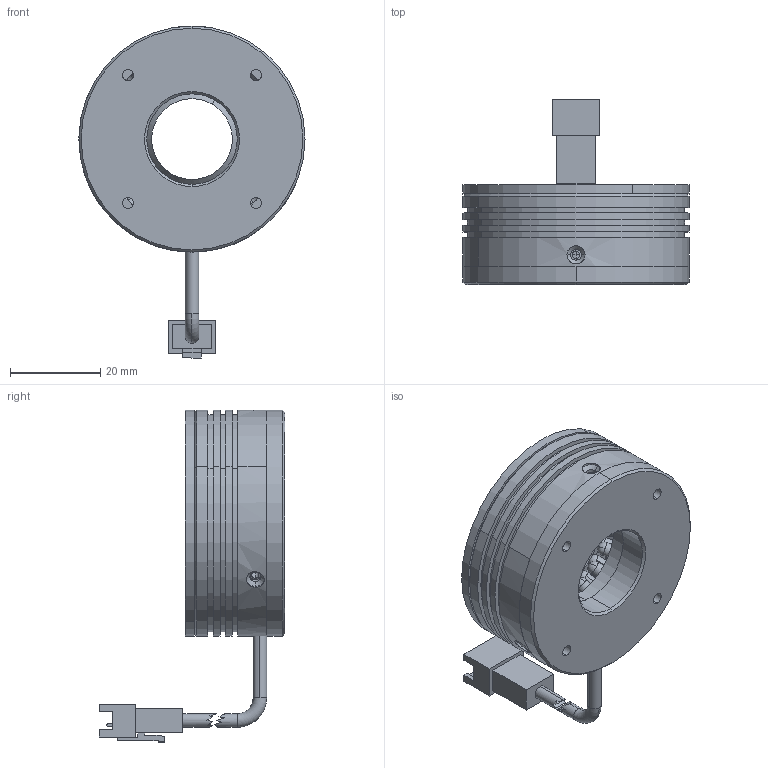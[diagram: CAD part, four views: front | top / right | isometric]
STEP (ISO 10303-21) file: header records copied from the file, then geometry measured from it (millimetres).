
FILE_DESCRIPTION (( 'STEP AP203' ), '1' );
FILE_NAME ('CRT-RL5045-¼òÒ×3DÍ¼.STEP', '2021-12-14T09:33:08', ( 'Admin' ), ( '' ), 'SwSTEP 2.0', 'SolidWorks 2018', '' );
FILE_SCHEMA (( 'CONFIG_CONTROL_DESIGN' ));
Length unit declared in the file: millimetre
Products named in the file (1): CRT-RL5045-潠眢3D芞
Bounding box: 50 x 41 x 73.4 mm (x, y, z)
Surface area: 15035.8 mm2 (no closed solid volume)
Topology: 0 solids, 36 shells, 292 faces, 807 edges, 505 vertices
Faces by surface type: cylinder 127, plane 87, sphere 50, cone 26, torus 2
Entity records: 9428 total; most frequent: CARTESIAN_POINT 2047, DIRECTION 1663, ORIENTED_EDGE 1377, EDGE_CURVE 757, AXIS2_PLACEMENT_3D 663, VERTEX_POINT 505, CIRCLE 370, LINE 337
